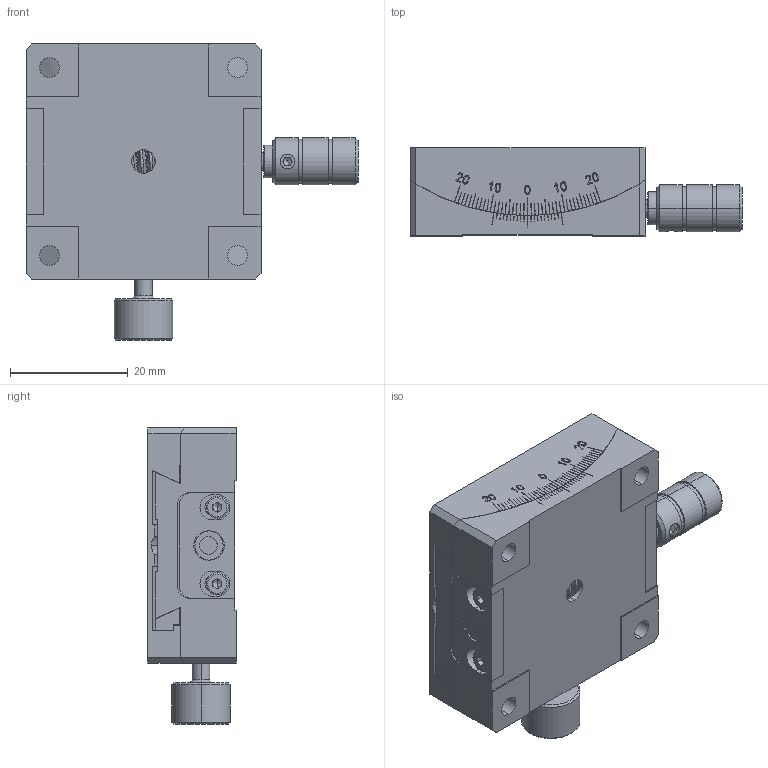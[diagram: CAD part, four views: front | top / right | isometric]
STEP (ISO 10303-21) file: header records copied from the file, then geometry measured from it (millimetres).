
FILE_DESCRIPTION (( 'STEP AP203' ), '1' );
FILE_NAME ('BFSG40-25.STEP', '2024-07-29T11:53:58', ( '微软用户' ), ( '微软中国' ), 'SwSTEP 2.0', 'SolidWorks 2024', '' );
FILE_SCHEMA (( 'CONFIG_CONTROL_DESIGN' ));
Length unit declared in the file: millimetre
Products named in the file (1): BFSG40-25
Bounding box: 56.5 x 15 x 50.39 mm (x, y, z)
Volume: 22754.6 mm3; surface area: 15934.7 mm2
Topology: 15 solids, 15 shells, 757 faces, 1999 edges, 1287 vertices
Faces by surface type: plane 463, cylinder 178, cone 71, bspline 35, torus 10
Entity records: 32558 total; most frequent: CARTESIAN_POINT 13873, ORIENTED_EDGE 3918, DIRECTION 3737, EDGE_CURVE 1959, VECTOR 1335, LINE 1335, VERTEX_POINT 1287, AXIS2_PLACEMENT_3D 1201
